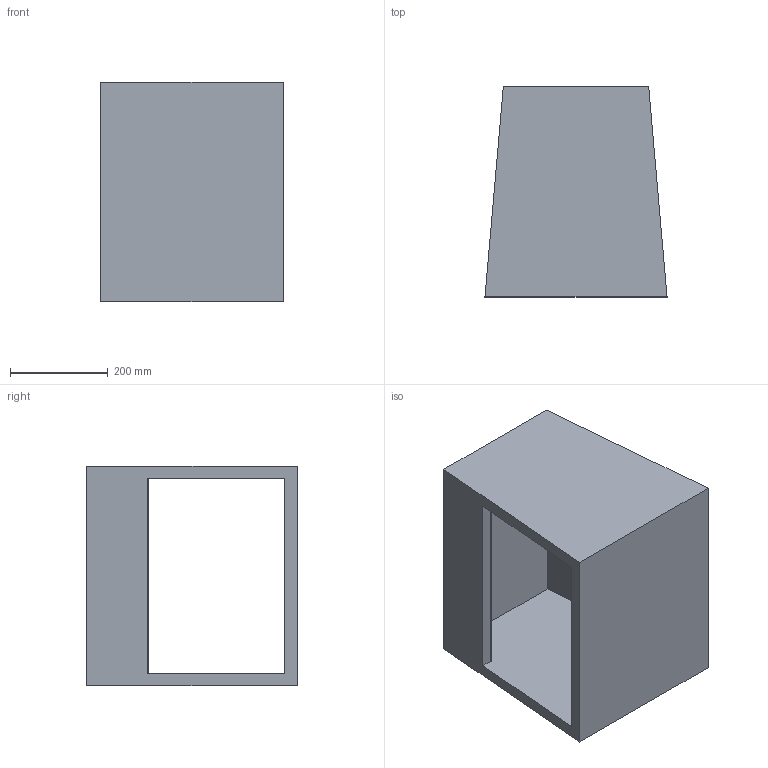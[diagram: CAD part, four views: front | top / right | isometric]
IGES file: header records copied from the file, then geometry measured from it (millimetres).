
Start section: SolidWorks IGES file using analytic representation for surfaces
Global section: file name: C:\Users\David.BDLE\Desktop\NOVOS 3D cad files\MAIA_Large.IGS; native system: SolidWorks 2016; preprocessor: SolidWorks 2016; author: David; date: 201118.172712; units: millimetre
Bounding box: 372.84 x 430.21 x 450 mm (x, y, z)
Surface area: 1344670.2 mm2 (no closed solid volume)
Topology: 0 solids, 0 shells, 19 faces, 136 edges, 136 vertices
Faces by surface type: bspline 17, revolution 2
